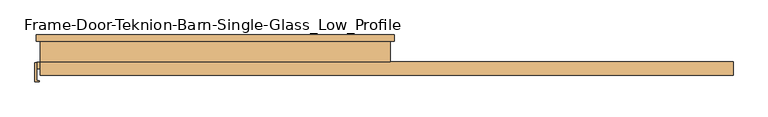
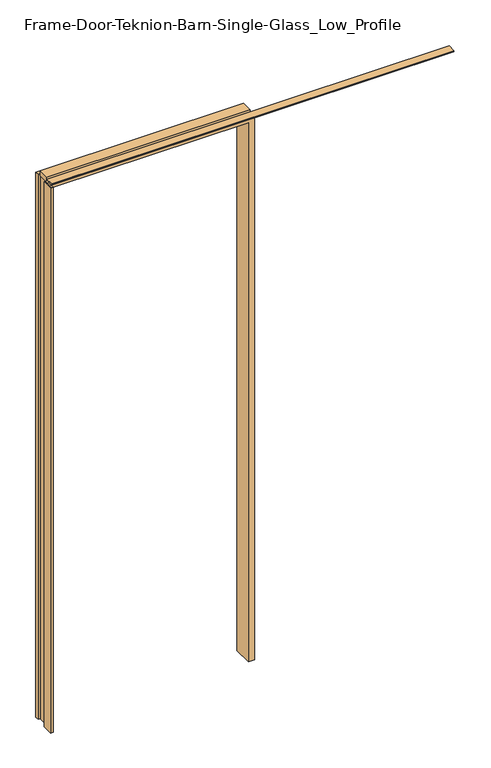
"""IFC4 building model written with IfcOpenShell, lengths in millimetres: door geometry, Frame-Door-Teknion-Barn-Single-Glass_Low_Profile : FPUGFJ."""

import ifcopenshell
import ifcopenshell.guid

model = None  # the IFC model being written
_history = None  # IfcOwnerHistory: only IFC2X3 demands one
_inside = {}  # id of a spatial element -> (the spatial element, [elements in it])
_under = {}  # id of a project, library or spatial element -> (it, [spatial elements below it])
_declared = {}  # id of a project -> (the project, [libraries it declares])
_typed = {}  # id of a type object -> (the type object, [elements of that type])
_made_of = {}  # id of a material, layer set ... -> (it, [elements and type objects made of it])


def new_model(schema):
    """Start an empty IFC model of exactly this schema.

    Asked for "IFC4X3", IfcOpenShell would pick the latest addendum, in which some entities
    have other attributes; the version numbers below select the first issue.
    IFC2X3 requires an IfcOwnerHistory on every rooted entity: one is made here for all.
    """
    global model, _history
    if schema == "IFC4X3":
        model = ifcopenshell.file(schema_version=(4, 3, 0, 0))
    else:
        model = ifcopenshell.file(schema=schema)
    _inside.clear()
    _under.clear()
    _declared.clear()
    _typed.clear()
    _made_of.clear()
    _history = None
    if model.schema == "IFC2X3":
        org = make("IfcOrganization", Name="unknown")
        user = make(
            "IfcPersonAndOrganization",
            ThePerson=make("IfcPerson", FamilyName="unknown"),
            TheOrganization=org,
        )
        app = make(
            "IfcApplication",
            ApplicationDeveloper=org,
            Version="unknown",
            ApplicationFullName="unknown",
            ApplicationIdentifier="unknown",
        )
        _history = make(
            "IfcOwnerHistory",
            OwningUser=user,
            OwningApplication=app,
            ChangeAction="ADDED",
            CreationDate=0,
        )
    return model


def make(cls, **values):
    """One entity of the class cls with the attributes given. An attribute that is None is left unset."""
    return model.create_entity(
        cls, **{name: value for name, value in values.items() if value is not None}
    )


def rooted(cls, **values):
    """An entity with a GlobalId (a new one), such as an element, a storey or a relation."""
    return make(cls, GlobalId=ifcopenshell.guid.new(), OwnerHistory=_history, **values)


def si_unit(unit_type, name, prefix=None):
    """IfcSIUnit, for example si_unit("LENGTHUNIT", "METRE", prefix="MILLI")."""
    return make("IfcSIUnit", UnitType=unit_type, Prefix=prefix, Name=name)


def assignment(units):
    """IfcUnitAssignment: the units of a project."""
    return None if units is None else make("IfcUnitAssignment", Units=units)


def point(xyz):
    """IfcCartesianPoint."""
    return None if xyz is None else make("IfcCartesianPoint", Coordinates=xyz)


def direction(xyz):
    """IfcDirection."""
    return None if xyz is None else make("IfcDirection", DirectionRatios=xyz)


def frame(location, z_axis=None, x_axis=None):
    """IfcAxis2Placement3D, a coordinate frame: its origin and axes. An axis left out is left unset."""
    return make(
        "IfcAxis2Placement3D",
        Location=point(location),
        Axis=direction(z_axis),
        RefDirection=direction(x_axis),
    )


def frame_2d(location, x_axis=None):
    """IfcAxis2Placement2D, a coordinate frame in the plane: its origin and x axis."""
    return make(
        "IfcAxis2Placement2D", Location=point(location), RefDirection=direction(x_axis)
    )


def origin():
    """The frame at (0, 0, 0) with its axes left unset."""
    return frame((0.0, 0.0, 0.0))


def origin_with_axes():
    """The frame at (0, 0, 0) with the z axis (0, 0, 1) and the x axis (1, 0, 0) written out."""
    return frame((0.0, 0.0, 0.0), z_axis=(0.0, 0.0, 1.0), x_axis=(1.0, 0.0, 0.0))


def place(relative_to, where):
    """IfcLocalPlacement: puts the frame where relative to a parent placement (None: the world)."""
    return make(
        "IfcLocalPlacement", PlacementRelTo=relative_to, RelativePlacement=where
    )


def context(
    kind, dimensions, precision=None, world=None, true_north=None, identifier=None
):
    """IfcGeometricRepresentationContext, for example the 3D "Model" context."""
    return make(
        "IfcGeometricRepresentationContext",
        ContextIdentifier=identifier,
        ContextType=kind,
        CoordinateSpaceDimension=dimensions,
        Precision=precision,
        WorldCoordinateSystem=world,
        TrueNorth=true_north,
    )


def project(units=None, contexts=None):
    """IfcProject with its units and contexts."""
    return rooted(
        "IfcProject",
        Name="project",
        RepresentationContexts=contexts,
        UnitsInContext=assignment(units),
    )


def spatial(cls, under=None, at=None, **own):
    """A site, building, storey or space (cls), placed at a placement, below another one or the project."""
    s = rooted(cls, ObjectPlacement=at, **own)
    if under is not None:
        _under.setdefault(under.id(), (under, []))[1].append(s)
    return s


def polyline(points):
    """IfcPolyline through the points."""
    return make("IfcPolyline", Points=[point(p) for p in points])


def circle_curve(where, radius):
    """IfcCircle in the frame where."""
    return make("IfcCircle", Position=where, Radius=radius)


def trimmed(basis, trim1, trim2, sense, master):
    """IfcTrimmedCurve: the piece of a basis curve between two trims."""
    return make(
        "IfcTrimmedCurve",
        BasisCurve=basis,
        Trim1=trim1,
        Trim2=trim2,
        SenseAgreement=sense,
        MasterRepresentation=master,
    )


def segment(curve, same_sense, transition):
    """IfcCompositeCurveSegment."""
    return make(
        "IfcCompositeCurveSegment",
        Transition=transition,
        SameSense=same_sense,
        ParentCurve=curve,
    )


def composite_curve(segments, self_intersect=None):
    """IfcCompositeCurve: segments joined end to end."""
    return make("IfcCompositeCurve", Segments=segments, SelfIntersect=self_intersect)


def outline(outer, holes=None, kind="AREA"):
    """IfcArbitraryClosedProfileDef: a profile drawn as a closed curve; with holes, ...WithVoids."""
    if holes is None:
        return make("IfcArbitraryClosedProfileDef", ProfileType=kind, OuterCurve=outer)
    return make(
        "IfcArbitraryProfileDefWithVoids",
        ProfileType=kind,
        OuterCurve=outer,
        InnerCurves=holes,
    )


def extrude(swept, where, along, depth):
    """IfcExtrudedAreaSolid: the profile swept, set in the frame where, extruded along a direction by depth."""
    return make(
        "IfcExtrudedAreaSolid",
        SweptArea=swept,
        Position=where,
        ExtrudedDirection=direction(along),
        Depth=depth,
    )


def faces_of(points, faces, orient=None, outer=None):
    """IfcFace entities. A face is a list of loops; a loop is a list of indices into points, from 0.

    orient and outer hold one flag for each loop. By default every Orientation is true, the
    first loop of a face is its IfcFaceOuterBound and the others are IfcFaceBound.
    """
    made = []
    for i, loops in enumerate(faces):
        bounds = []
        for j, loop in enumerate(loops):
            is_outer = j == 0 if outer is None else outer[i][j]
            bounds.append(
                make(
                    "IfcFaceOuterBound" if is_outer else "IfcFaceBound",
                    Bound=make("IfcPolyLoop", Polygon=[points[k] for k in loop]),
                    Orientation=True if orient is None else orient[i][j],
                )
            )
        made.append(make("IfcFace", Bounds=bounds))
    return made


def faceted_brep(points, faces, orient=None, outer=None, voids=None):
    """IfcFacetedBrep: a solid bounded by flat faces; with voids (closed shells), ...WithVoids."""
    shared = [point(p) for p in points]
    hull = make("IfcClosedShell", CfsFaces=faces_of(shared, faces, orient, outer))
    if voids is None:
        return make("IfcFacetedBrep", Outer=hull)
    return make(
        "IfcFacetedBrepWithVoids",
        Outer=hull,
        Voids=[
            make(cls, CfsFaces=faces_of(shared, fs, o, b)) for cls, fs, o, b in voids
        ],
    )


def shape(context_of_items, identifier, shape_type, items):
    """IfcShapeRepresentation: the items that make up one representation, for example the "Body"."""
    return make(
        "IfcShapeRepresentation",
        ContextOfItems=context_of_items,
        RepresentationIdentifier=identifier,
        RepresentationType=shape_type,
        Items=items,
    )


def source(mapping_origin, context_of_items, identifier, shape_type, items):
    """IfcRepresentationMap: a shape defined once, which mapped items show again and again."""
    return make(
        "IfcRepresentationMap",
        MappingOrigin=mapping_origin,
        MappedRepresentation=shape(context_of_items, identifier, shape_type, items),
    )


def transform(
    local_origin,
    x_axis=None,
    y_axis=None,
    z_axis=None,
    scale=None,
    scale2=None,
    scale3=None,
    uniform=True,
):
    """IfcCartesianTransformationOperator3D, or its non-uniform kind. x_axis, y_axis, z_axis: its Axis1, 2, 3."""
    if uniform:
        return make(
            "IfcCartesianTransformationOperator3D",
            Axis1=direction(x_axis),
            Axis2=direction(y_axis),
            LocalOrigin=point(local_origin),
            Scale=scale,
            Axis3=direction(z_axis),
        )
    return make(
        "IfcCartesianTransformationOperator3DnonUniform",
        Axis1=direction(x_axis),
        Axis2=direction(y_axis),
        LocalOrigin=point(local_origin),
        Scale=scale,
        Axis3=direction(z_axis),
        Scale2=scale2,
        Scale3=scale3,
    )


def mapped(mapping_source, mapping_target):
    """IfcMappedItem: shows the shape of a source again, moved by a transform."""
    return make(
        "IfcMappedItem", MappingSource=mapping_source, MappingTarget=mapping_target
    )


def made_of(thing, what):
    """Note that an element or type object is made of a material, layer set ...; save() writes the relation."""
    if what is not None:
        _made_of.setdefault(what.id(), (what, []))[1].append(thing)
    return thing


def element(
    cls,
    number,
    at=None,
    inside=None,
    cuts=None,
    type_object=None,
    material=None,
    context=None,
    identifier="Body",
    shape_type=None,
    held_by="IfcProductDefinitionShape",
    body=None,
    shapes=None,
    **own,
):
    """One element of the class cls, such as IfcWall. Its Tag is "e" and its number.

    at: its placement. inside: the storey or other place that contains it. cuts: it is an
    opening in that element (IfcRelVoidsElement). A single representation is given by context,
    identifier, shape_type and body (its items); several are given by shapes. held_by: the class
    of the entity that holds the representations. save() writes the other relations.
    """
    e = rooted(cls, Tag="e%d" % number, ObjectPlacement=at, **own)
    if body is not None:
        shapes = [shape(context, identifier, shape_type, body)]
    if shapes is not None:
        e.Representation = make(held_by, Representations=shapes)
    if inside is not None:
        _inside.setdefault(inside.id(), (inside, []))[1].append(e)
    if cuts is not None:
        rooted(
            "IfcRelVoidsElement", RelatingBuildingElement=cuts, RelatedOpeningElement=e
        )
    if type_object is not None:
        _typed.setdefault(type_object.id(), (type_object, []))[1].append(e)
    return made_of(e, material)


def aggregate(whole, parts):
    """IfcRelAggregates: a whole, such as a stair, and the parts it consists of."""
    return rooted("IfcRelAggregates", RelatingObject=whole, RelatedObjects=parts)


def save(model, path):
    """Write the relations noted so far, then the file.

    IfcRelAggregates (storeys below a building ...), IfcRelContainedInSpatialStructure (elements
    in a storey), IfcRelDefinesByType, IfcRelAssociatesMaterial and IfcRelDeclares: one each for
    every whole, place, type object, material and project.
    """
    for whole, parts in _under.values():
        aggregate(whole, parts)
    for where, things in _inside.values():
        rooted(
            "IfcRelContainedInSpatialStructure",
            RelatedElements=things,
            RelatingStructure=where,
        )
    for kind, things in _typed.values():
        rooted("IfcRelDefinesByType", RelatedObjects=things, RelatingType=kind)
    for what, things in _made_of.values():
        rooted("IfcRelAssociatesMaterial", RelatedObjects=things, RelatingMaterial=what)
    for by, libraries in _declared.values():
        rooted("IfcRelDeclares", RelatingContext=by, RelatedDefinitions=libraries)
    model.write(path)


def frame_door_teknion_barn_single_glass_low_profile_f298f074(model_context):
    return source(origin(), model_context, "Body", "SolidModel", [
        extrude(outline(polyline([(-534.933396, -32.3583761), (-530.2018277, -32.3583761), (-530.2018277, -86.5235242), (-521.4755703, -86.5235242), (-521.4755703, -88.3672512), (-534.933396, -88.3672512), (-534.933396, -32.3583761)])), origin_with_axes(), (0.0, 0.0, 1.0), 2941.1139997),
        faceted_brep([(-497.9129658, 50.0254003, 0.0), (-497.9129658, -50.0254003, 0.0), (-530.2097562, -50.0254003, 0.0), (-530.2097562, -31.6863997, 0.0), (-518.4749562, -31.6863997, 0.0), (-518.4749562, 30.7214003, 0.0), (-530.2351562, 30.7214003, 0.0), (-530.2351562, 50.0254003, 0.0), (-497.9129658, 50.0254003, 2908.8172092), (-497.9129658, -50.0254003, 2908.8172092), (497.9129658, -50.0254003, 2908.8172092), (497.9129658, -50.0254003, 0.0), (530.2097562, -50.0254003, 0.0), (530.2097562, -50.0254003, 2941.1139997), (-530.2097562, -50.0254003, 2941.1139997), (-530.2097562, -31.6863997, 2941.1139997), (530.2097562, -31.6863997, 2941.1139997), (530.2097562, -31.6863997, 0.0), (518.4749562, -31.6863997, 0.0), (518.4749562, -31.6863997, 2929.3791997), (-518.4749562, -31.6863997, 2929.3791997), (-518.4749562, 30.7214003, 2929.3791997), (518.4749562, 30.7214003, 2929.3791997), (518.4749562, 30.7214003, 0.0), (530.2351562, 30.7214003, 0.0), (530.2351562, 30.7214003, 2941.1393997), (-530.2351562, 30.7214003, 2941.1393997), (-530.2351562, 50.0254003, 2941.1393997), (530.2351562, 50.0254003, 2941.1393997), (530.2351562, 50.0254003, 0.0), (497.9129658, 50.0254003, 0.0), (497.9129658, 50.0254003, 2908.8172092)], [[[0, 1, 2, 3, 4, 5, 6, 7]], [[1, 0, 8, 9]], [[2, 1, 9, 10, 11, 12, 13, 14]], [[3, 2, 14, 15]], [[4, 3, 15, 16, 17, 18, 19, 20]], [[5, 4, 20, 21]], [[6, 5, 21, 22, 23, 24, 25, 26]], [[7, 6, 26, 27]], [[0, 7, 27, 28, 29, 30, 31, 8]], [[10, 31, 30, 11]], [[30, 29, 24, 23, 18, 17, 12, 11]], [[16, 13, 12, 17]], [[22, 19, 18, 23]], [[28, 25, 24, 29]], [[9, 8, 31, 10]], [[15, 14, 13, 16]], [[21, 20, 19, 22]], [[27, 26, 25, 28]]]),
        extrude(outline(composite_curve([segment(polyline([(-69.8995142, 2947.035), (-29.2073222, 2947.035), (-29.2073222, 2941.955), (-57.9118332, 2941.955), (-57.9118332, 2936.6616454), (-63.6429986, 2936.6616454)]), True, "CONTINUOUS"), segment(trimmed(circle_curve(frame_2d((-63.6429986, 2942.918161)), 6.2565156), [point((-63.6429986, 2936.6616454))], [point((-69.8995142, 2942.918161))], False, "CARTESIAN"), True, "CONTINUOUS"), segment(polyline([(-69.8995142, 2942.918161), (-69.8995142, 2947.035)]), True, "CONTINUOUS")], self_intersect=False)), frame((-519.4101562, 0.0, 0.0), z_axis=(1.0, 0.0, 0.0), x_axis=(0.0, 1.0, 0.0)), (0.0, 0.0, 1.0), 2054.8203125),
        extrude(outline(polyline([(-519.4101562, -29.2199219), (-519.4101562, 29.2199219), (519.4101563, 29.2199219), (519.4101563, -29.2199219), (-519.4101562, -29.2199219)])), frame((0.0, 0.0, 2930.5051563), z_axis=(0.0, 0.0, 1.0), x_axis=(1.0, 0.0, 0.0)), (0.0, 0.0, 1.0), 27.9796875),
    ])


if __name__ == "__main__":
    model = new_model("IFC4")
    model_context = context("Model", 3, world=origin())
    ifc_project = project(units=[si_unit("LENGTHUNIT", "METRE", prefix="MILLI")], contexts=[model_context])
    site = spatial("IfcSite", under=ifc_project)
    building = spatial("IfcBuilding", under=site)
    placement = place(None, origin())
    frame_door_teknion_barn_single_glass_low_profile_shape = frame_door_teknion_barn_single_glass_low_profile_f298f074(model_context)
    element("IfcDoor", 1, ObjectType="Frame-Door-Teknion-Barn-Single-Glass_Low_Profile : FPUGFJ", at=placement, inside=building, context=model_context, shape_type="MappedRepresentation", body=[
        mapped(frame_door_teknion_barn_single_glass_low_profile_shape, transform((0.0, 0.0, 0.0), x_axis=(1.0, 0.0, 0.0), y_axis=(0.0, 1.0, 0.0), z_axis=(0.0, 0.0, 1.0))),
    ])
    save(model, "model.ifc")
